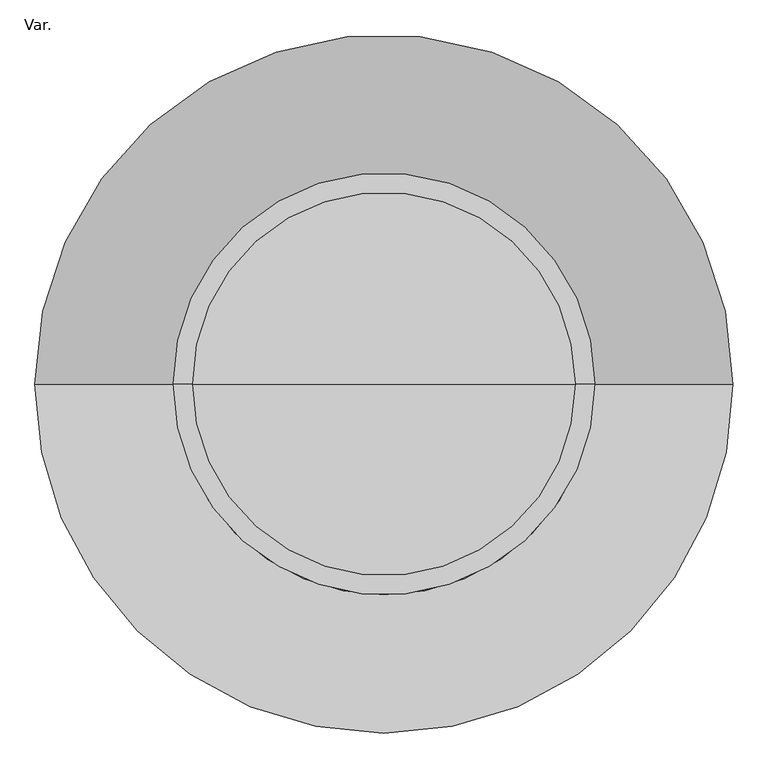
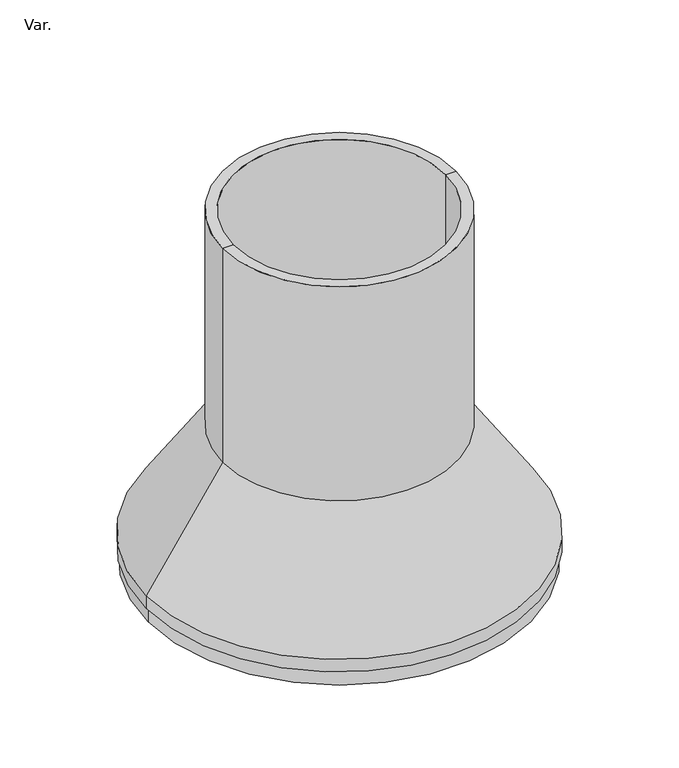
"""IFC4 building model written with IfcOpenShell, lengths in millimetres: pipe fitting geometry, PlastigamaWavin_Unionesdetubería_NovafortZNoUsarManholeCono : Var.."""

from ifc_helpers import new_model, si_unit, frame, origin, place, context, project, spatial, polyline, circle_curve, source, transform, mapped, element, save
from ifc_brep_helpers import plane_surface, cylinder_surface, revolved_surface, advanced_brep


def var_048a463b(model_context):
    return source(origin(), model_context, "Body", "AdvancedBrep", [
        advanced_brep(
        [(508.0, 0.0, 0.0), (-508.0, 0.0, 0.0), (0.0, 0.0, 0.0), (508.0, 0.0, -40.0), (-508.0, 0.0, -40.0), (0.0, 0.0, -40.0)],
        [
            (0, 1, circle_curve(frame((0.0, 0.0, 0.0), z_axis=(0.0, 0.0, 1.0), x_axis=(-1.0, 0.0, 0.0)), 508.0)),
            (1, 2),
            (2, 0),
            (1, 0, circle_curve(frame((0.0, 0.0, 0.0), z_axis=(0.0, 0.0, 1.0), x_axis=(-1.0, 0.0, 0.0)), 508.0)),
            (3, 4, circle_curve(frame((0.0, 0.0, -40.0), z_axis=(0.0, 0.0, 1.0), x_axis=(-1.0, 0.0, 0.0)), 508.0)),
            (4, 1),
            (0, 3),
            (4, 3, circle_curve(frame((0.0, 0.0, -40.0), z_axis=(0.0, 0.0, 1.0), x_axis=(-1.0, 0.0, 0.0)), 508.0)),
            (5, 4),
            (3, 5),
        ],
        [
            plane_surface(frame((0.0, 0.0, 0.0), z_axis=(0.0, 0.0, 1.0), x_axis=(-1.0, 0.0, 0.0))),
            cylinder_surface(frame((0.0, 0.0, 0.0), z_axis=(0.0, 0.0, -1.0), x_axis=(-1.0, 0.0, 0.0)), 508.0),
            plane_surface(frame((0.0, 0.0, -40.0), z_axis=(0.0, 0.0, -1.0), x_axis=(-1.0, 0.0, 0.0))),
        ],
        [
            (0, [[1, 2, 3]]),
            (0, [[4, -3, -2]]),
            (1, [[5, 6, -1, 7]]),
            (1, [[8, -7, -4, -6]]),
            (2, [[9, -5, 10]]),
            (2, [[-10, -8, -9]]),
        ],
    ),
        advanced_brep(
        [(0.0, 0.0, 0.0), (-512.5, 0.0, 0.0), (512.5, 0.0, 0.0), (281.5, 0.0, 338.0), (-281.5, 0.0, 338.0), (0.0, 0.0, 338.0), (281.5, 0.0, 938.0), (-281.5, 0.0, 938.0), (309.5, 0.0, 938.0), (-309.5, 0.0, 938.0), (309.5, 0.0, 338.0), (-309.5, 0.0, 338.0), (512.5, 0.0, 35.0), (-512.5, 0.0, 35.0)],
        [
            (0, 1),
            (1, 2, circle_curve(frame((0.0, 0.0, 0.0), z_axis=(0.0, 0.0, -1.0), x_axis=(-1.0, 0.0, 0.0)), 512.5)),
            (2, 0),
            (2, 1, circle_curve(frame((0.0, 0.0, 0.0), z_axis=(0.0, 0.0, -1.0), x_axis=(-1.0, 0.0, 0.0)), 512.5)),
            (3, 4, circle_curve(frame((0.0, 0.0, 338.0), z_axis=(0.0, 0.0, 1.0), x_axis=(-1.0, 0.0, 0.0)), 281.5)),
            (4, 5),
            (5, 3),
            (4, 3, circle_curve(frame((0.0, 0.0, 338.0), z_axis=(0.0, 0.0, 1.0), x_axis=(-1.0, 0.0, 0.0)), 281.5)),
            (6, 7, circle_curve(frame((0.0, 0.0, 938.0), z_axis=(0.0, 0.0, 1.0), x_axis=(-1.0, 0.0, 0.0)), 281.5)),
            (7, 4),
            (3, 6),
            (7, 6, circle_curve(frame((0.0, 0.0, 938.0), z_axis=(0.0, 0.0, 1.0), x_axis=(-1.0, 0.0, 0.0)), 281.5)),
            (8, 9, circle_curve(frame((0.0, 0.0, 938.0), z_axis=(0.0, 0.0, 1.0), x_axis=(-1.0, 0.0, 0.0)), 309.5)),
            (9, 7),
            (6, 8),
            (9, 8, circle_curve(frame((0.0, 0.0, 938.0), z_axis=(0.0, 0.0, 1.0), x_axis=(-1.0, 0.0, 0.0)), 309.5)),
            (10, 11, circle_curve(frame((0.0, 0.0, 338.0), z_axis=(0.0, 0.0, 1.0), x_axis=(-1.0, 0.0, 0.0)), 309.5)),
            (11, 9),
            (8, 10),
            (11, 10, circle_curve(frame((0.0, 0.0, 338.0), z_axis=(0.0, 0.0, 1.0), x_axis=(-1.0, 0.0, 0.0)), 309.5)),
            (12, 13, circle_curve(frame((0.0, 0.0, 35.0), z_axis=(0.0, 0.0, 1.0), x_axis=(-1.0, 0.0, 0.0)), 512.5)),
            (13, 11),
            (10, 12),
            (13, 12, circle_curve(frame((0.0, 0.0, 35.0), z_axis=(0.0, 0.0, 1.0), x_axis=(-1.0, 0.0, 0.0)), 512.5)),
            (1, 13),
            (12, 2),
        ],
        [
            plane_surface(frame((0.0, 0.0, 0.0), z_axis=(0.0, 0.0, -1.0), x_axis=(-1.0, 0.0, 0.0))),
            plane_surface(frame((0.0, 0.0, 338.0), z_axis=(0.0, 0.0, 1.0), x_axis=(-1.0, 0.0, 0.0))),
            revolved_surface(polyline([(-281.5, 0.0, 338.0), (-281.5, 0.0, 938.0)]), (0.0, 0.0, 938.0), (0.0, 0.0, -1.0)),
            plane_surface(frame((0.0, 0.0, 938.0), z_axis=(0.0, 0.0, 1.0), x_axis=(-1.0, 0.0, 0.0))),
            cylinder_surface(frame((0.0, 0.0, 938.0), z_axis=(0.0, 0.0, -1.0), x_axis=(-1.0, 0.0, 0.0)), 309.5),
            revolved_surface(polyline([(-309.5, 0.0, 338.0), (-512.5, 0.0, 35.0)]), (0.0, 0.0, 938.0), (0.0, 0.0, -1.0)),
            cylinder_surface(frame((0.0, 0.0, 938.0), z_axis=(0.0, 0.0, -1.0), x_axis=(-1.0, 0.0, 0.0)), 512.5),
        ],
        [
            (0, [[1, 2, 3]]),
            (0, [[-3, 4, -1]]),
            (1, [[5, 6, 7]]),
            (1, [[8, -7, -6]]),
            (2, [[9, 10, -5, 11]]),
            (2, [[12, -11, -8, -10]]),
            (3, [[13, 14, -9, 15]]),
            (3, [[16, -15, -12, -14]]),
            (4, [[17, 18, -13, 19]]),
            (4, [[20, -19, -16, -18]]),
            (5, [[21, 22, -17, 23]]),
            (5, [[24, -23, -20, -22]]),
            (6, [[-2, 25, -21, 26]]),
            (6, [[-4, -26, -24, -25]]),
        ],
    ),
    ])


if __name__ == "__main__":
    model = new_model("IFC4")
    model_context = context("Model", 3, world=origin())
    ifc_project = project(units=[si_unit("LENGTHUNIT", "METRE", prefix="MILLI")], contexts=[model_context])
    site = spatial("IfcSite", under=ifc_project)
    building = spatial("IfcBuilding", under=site)
    placement = place(None, origin())
    var_shape = var_048a463b(model_context)
    element("IfcPipeFitting", 1, ObjectType="PlastigamaWavin_Unionesdetubería_NovafortZNoUsarManholeCono : Var.", at=placement, inside=building, context=model_context, shape_type="MappedRepresentation", body=[
        mapped(var_shape, transform((0.0, 0.0, 0.0), x_axis=(1.0, 0.0, 0.0), y_axis=(0.0, 1.0, 0.0), z_axis=(0.0, 0.0, 1.0))),
    ])
    save(model, "model.ifc")
